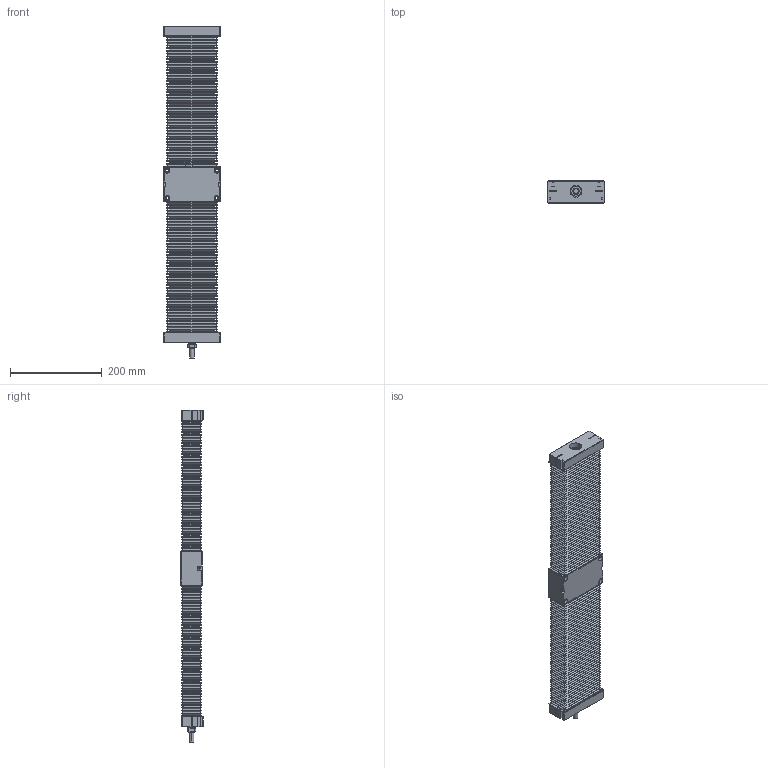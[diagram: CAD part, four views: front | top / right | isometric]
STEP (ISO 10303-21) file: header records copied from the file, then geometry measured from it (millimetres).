
FILE_DESCRIPTION (( 'STEP AP214' ), '1' );
FILE_NAME ('TKC1610B-350H0C-Ä£×é.step', '2025-08-25T08:38:07', ( '' ), ( '' ), 'SwSTEP 2.0', 'SolidWorks 2024', '' );
FILE_SCHEMA (( 'AUTOMOTIVE_DESIGN' ));
Length unit declared in the file: millimetre
Products named in the file (4): TKC1610B-350H0C-模组; TKC16-350-01; TKC16-02; TKC16-350-03
Assembly tree (4 placements, depth 2):
  TKC1610B-350H0C-模组
    TKC16-02
    TKC16-350-01
    TKC16-350-03  x2
Bounding box: 122 x 48 x 722.5 mm (x, y, z)
Volume: 2060923.2 mm3; surface area: 705389.2 mm2
Topology: 10 solids, 14 shells, 1916 faces, 4248 edges, 2399 vertices
Faces by surface type: plane 1448, cylinder 393, cone 36, torus 28, bspline 11
Entity records: 49027 total; most frequent: CARTESIAN_POINT 19666, ORIENTED_EDGE 6024, DIRECTION 5752, EDGE_CURVE 3012, VECTOR 2128, LINE 2128, AXIS2_PLACEMENT_3D 1812, VERTEX_POINT 1787
